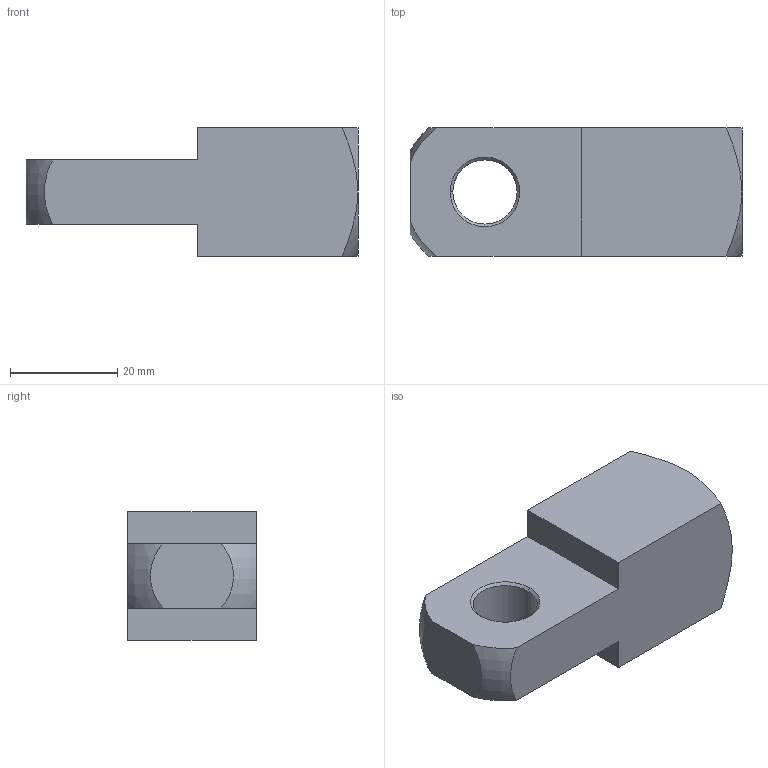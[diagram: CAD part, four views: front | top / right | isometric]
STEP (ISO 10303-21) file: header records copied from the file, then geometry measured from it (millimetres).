
FILE_DESCRIPTION (( 'STEP AP203' ), '1' );
FILE_NAME ('Default.step', '2014-01-22T12:15:49', ( 'User' ), ( '' ), 'SwSTEP 2.0', 'SolidWorks 2009', '' );
FILE_SCHEMA (( 'CONFIG_CONTROL_DESIGN' ));
Length unit declared in the file: millimetre
Products named in the file (1): Default
Bounding box: 62 x 24 x 24 mm (x, y, z)
Volume: 21721.2 mm3; surface area: 7358.7 mm2
Topology: 1 solids, 1 shells, 31 faces, 74 edges, 45 vertices
Faces by surface type: cone 12, plane 11, cylinder 6, torus 2
Entity records: 1095 total; most frequent: CARTESIAN_POINT 305, DIRECTION 152, ORIENTED_EDGE 144, EDGE_CURVE 72, AXIS2_PLACEMENT_3D 60, VERTEX_POINT 45, EDGE_LOOP 35, LINE 32
